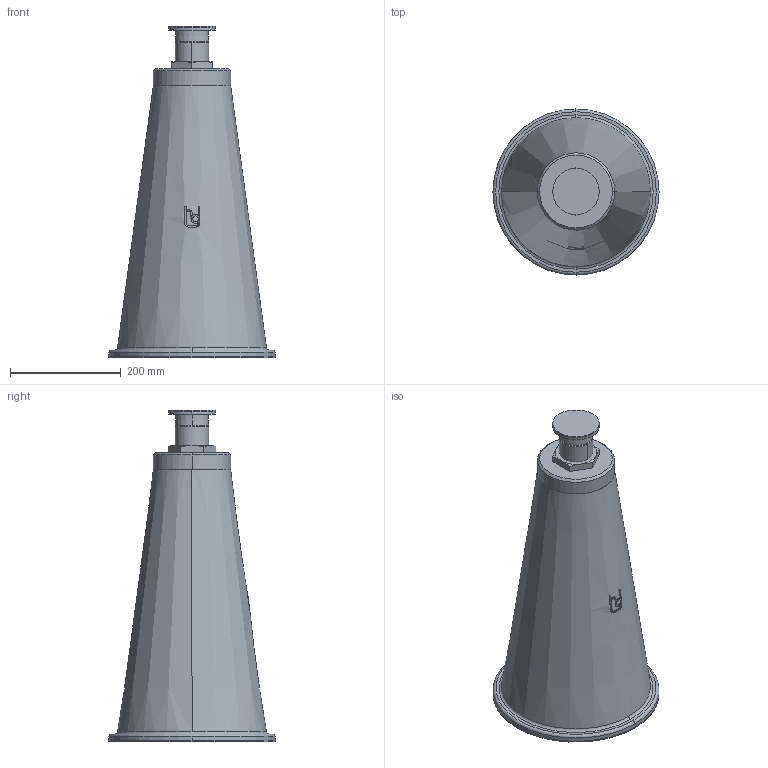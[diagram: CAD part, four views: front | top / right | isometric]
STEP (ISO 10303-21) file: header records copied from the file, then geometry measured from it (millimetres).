
FILE_DESCRIPTION(('STEP AP214'),'1');
FILE_NAME('RSRFC-09-V1.stp','2018-06-27T11:08:25',(' '),(' '),'Spatial InterOp 3D',' ',' ');
FILE_SCHEMA(('automotive_design'));
Length unit declared in the file: millimetre
Products named in the file (6): 1; 2; 3; 4; 5; 6
Bounding box: 300 x 300 x 599.11 mm (x, y, z)
Volume: 18559590 mm3; surface area: 689961.6 mm2
Topology: 6 solids, 6 shells, 107 faces, 261 edges, 171 vertices
Faces by surface type: plane 41, cylinder 35, cone 23, torus 8
Entity records: 4717 total; most frequent: CARTESIAN_POINT 1207, DIRECTION 545, ORIENTED_EDGE 522, EDGE_CURVE 261, AXIS2_PLACEMENT_3D 219, VERTEX_POINT 171, EDGE_LOOP 114, STYLED_ITEM 113
